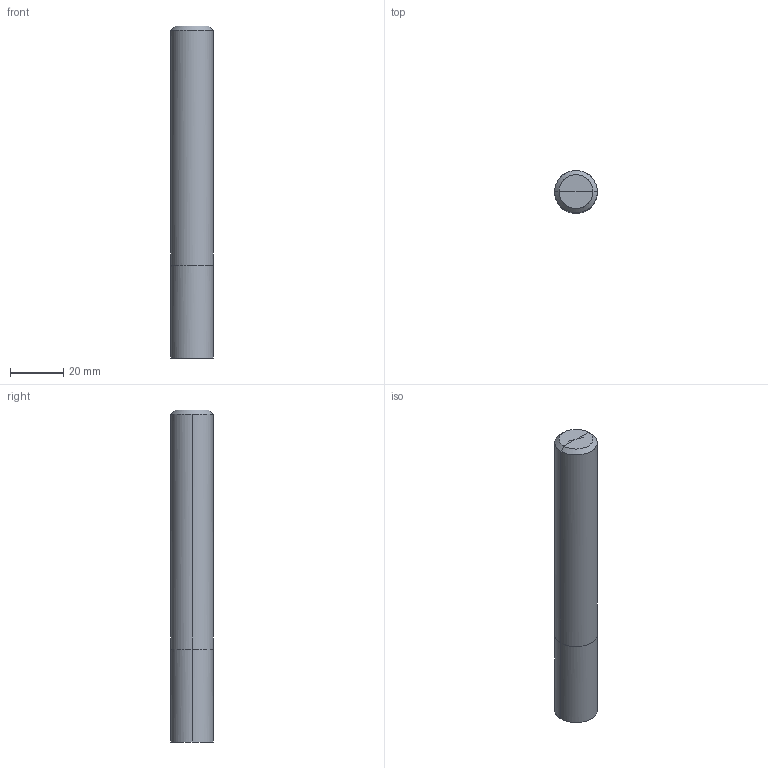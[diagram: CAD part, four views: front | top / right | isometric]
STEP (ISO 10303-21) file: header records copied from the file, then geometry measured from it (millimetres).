
FILE_DESCRIPTION(/* description */ (''),/* implementation_level */ '2;1');
FILE_NAME(/*name*/ '5021-16F',/*time_stamp*/'2021-4-28T7:53:45',/*author*/ ('ISBE GmbH'),/*organization*/ ('ISBE GmbH'),/*preprocessor_version*/ 'STEP IO v1.0',/*originating_system*/ '',/*authorisation*/ '');
FILE_SCHEMA (('AUTOMOTIVE_DESIGN'));
Length unit declared in the file: millimetre
Products named in the file (1): Document
Bounding box: 16 x 15.99 x 125 mm (x, y, z)
Surface area: 7046.9 mm2 (no closed solid volume)
Topology: 0 solids, 14 shells, 14 faces, 61 edges, 58 vertices
Faces by surface type: bspline 14
Entity records: 2323 total; most frequent: CARTESIAN_POINT 2046, VERTEX_POINT 48, EDGE_CURVE 48, ORIENTED_EDGE 48, DIRECTION 16, EDGE_LOOP 14, FACE_OUTER_BOUND 14, ADVANCED_FACE 14
